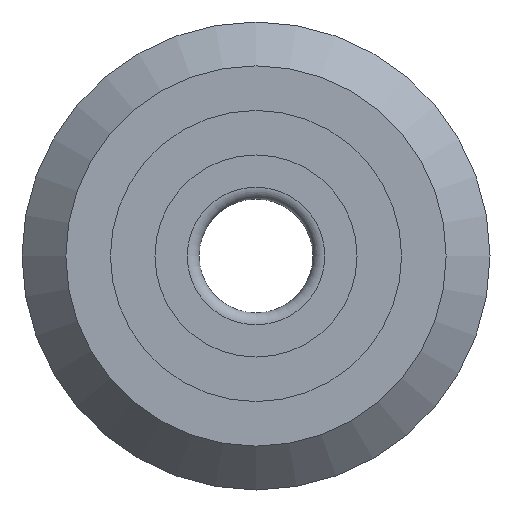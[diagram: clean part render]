
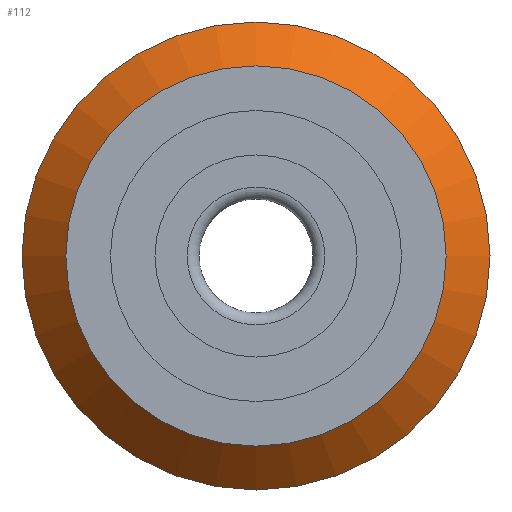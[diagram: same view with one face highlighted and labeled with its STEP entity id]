
A CAD part, front view. The second image highlights one B-rep face of the part: STEP entity #112.
In plain terms, the highlighted conical face has half-angle 45 degrees and reference radius 9.79 mm.
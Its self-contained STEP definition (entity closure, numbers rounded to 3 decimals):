
#112=ADVANCED_FACE('',(#173,#174),#175,.T.);
#173=FACE_OUTER_BOUND('',#239,.T.);
#174=FACE_BOUND('',#240,.T.);
#175=CONICAL_SURFACE('',#241,9.79,0.785);
#239=EDGE_LOOP('',(#343));
#240=EDGE_LOOP('',(#344));
#241=AXIS2_PLACEMENT_3D('',#345,#346,#347);
#343=ORIENTED_EDGE('',*,*,#378,.F.);
#344=ORIENTED_EDGE('',*,*,#375,.T.);
#345=CARTESIAN_POINT('',(0.0,-2.1,0.0));
#346=DIRECTION('',(-0.0,1.0,-0.0));
#347=DIRECTION('',(0.0,0.0,1.0));
#375=EDGE_CURVE('',#414,#414,#415,.T.);
#378=EDGE_CURVE('',#420,#420,#421,.T.);
#414=VERTEX_POINT('',#458);
#415=CIRCLE('',#459,7.955);
#420=VERTEX_POINT('',#464);
#421=CIRCLE('',#465,9.79);
#458=CARTESIAN_POINT('',(0.0,-3.935,7.955));
#459=AXIS2_PLACEMENT_3D('',#519,#520,#521);
#464=CARTESIAN_POINT('',(0.0,-2.1,9.79));
#465=AXIS2_PLACEMENT_3D('',#528,#529,#530);
#519=CARTESIAN_POINT('',(0.0,-3.935,0.0));
#520=DIRECTION('',(0.0,1.0,0.0));
#521=DIRECTION('',(0.0,0.0,1.0));
#528=CARTESIAN_POINT('',(0.0,-2.1,0.0));
#529=DIRECTION('',(0.0,1.0,0.0));
#530=DIRECTION('',(0.0,0.0,1.0));
